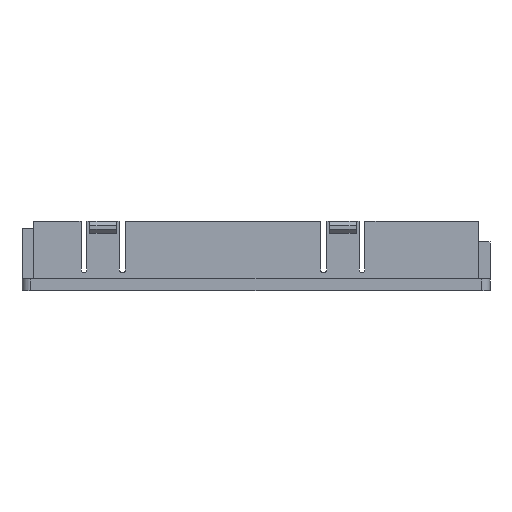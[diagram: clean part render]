
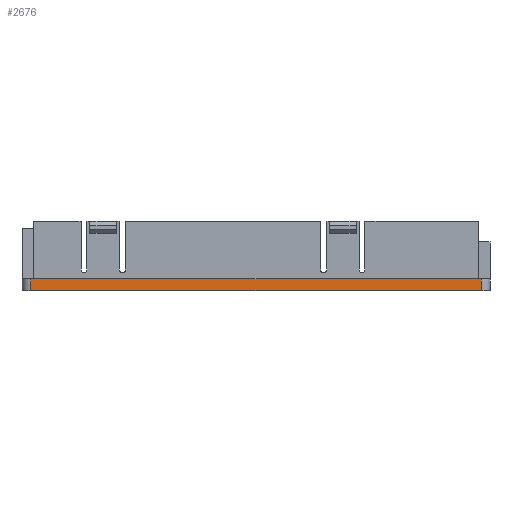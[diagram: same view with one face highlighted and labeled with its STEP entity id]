
A CAD part, front view. The second image highlights one B-rep face of the part: STEP entity #2676.
In plain terms, the highlighted planar face has unit normal (0, -1, 0).
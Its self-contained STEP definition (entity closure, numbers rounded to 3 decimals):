
#44 = PLANE('',#45);
#45 = AXIS2_PLACEMENT_3D('',#46,#47,#48);
#46 = CARTESIAN_POINT('',(0.,26.3,1.6));
#47 = DIRECTION('',(0.,0.,1.));
#48 = DIRECTION('',(-1.,-0.,0.));
#100 = PLANE('',#101);
#101 = AXIS2_PLACEMENT_3D('',#102,#103,#104);
#102 = CARTESIAN_POINT('',(0.,26.3,0.));
#103 = DIRECTION('',(0.,0.,1.));
#104 = DIRECTION('',(-1.,-0.,0.));
#128 = CYLINDRICAL_SURFACE('',#129,1.2);
#129 = AXIS2_PLACEMENT_3D('',#130,#131,#132);
#130 = CARTESIAN_POINT('',(1.2,1.2,0.));
#131 = DIRECTION('',(-0.,-0.,1.));
#132 = DIRECTION('',(-1.,-0.,0.));
#760 = VERTEX_POINT('',#761);
#761 = CARTESIAN_POINT('',(62.25,0.,1.6));
#780 = CYLINDRICAL_SURFACE('',#781,1.2);
#781 = AXIS2_PLACEMENT_3D('',#782,#783,#784);
#782 = CARTESIAN_POINT('',(62.25,1.2,0.));
#783 = DIRECTION('',(-0.,-0.,1.));
#784 = DIRECTION('',(1.,-0.,-0.));
#792 = EDGE_CURVE('',#793,#760,#795,.T.);
#793 = VERTEX_POINT('',#794);
#794 = CARTESIAN_POINT('',(1.2,0.,1.6));
#795 = SURFACE_CURVE('',#796,(#800,#807),.PCURVE_S1.);
#796 = LINE('',#797,#798);
#797 = CARTESIAN_POINT('',(0.,0.,1.6));
#798 = VECTOR('',#799,1.);
#799 = DIRECTION('',(1.,0.,0.));
#800 = PCURVE('',#44,#801);
#801 = DEFINITIONAL_REPRESENTATION('',(#802),#806);
#802 = LINE('',#803,#804);
#803 = CARTESIAN_POINT('',(-0.,26.3));
#804 = VECTOR('',#805,1.);
#805 = DIRECTION('',(-1.,-0.));
#806 = ( GEOMETRIC_REPRESENTATION_CONTEXT(2) 
PARAMETRIC_REPRESENTATION_CONTEXT() REPRESENTATION_CONTEXT('2D SPACE',''
  ) );
#807 = PCURVE('',#808,#813);
#808 = PLANE('',#809);
#809 = AXIS2_PLACEMENT_3D('',#810,#811,#812);
#810 = CARTESIAN_POINT('',(0.,0.,0.));
#811 = DIRECTION('',(0.,-1.,0.));
#812 = DIRECTION('',(0.,-0.,-1.));
#813 = DEFINITIONAL_REPRESENTATION('',(#814),#818);
#814 = LINE('',#815,#816);
#815 = CARTESIAN_POINT('',(-1.6,0.));
#816 = VECTOR('',#817,1.);
#817 = DIRECTION('',(-0.,1.));
#818 = ( GEOMETRIC_REPRESENTATION_CONTEXT(2) 
PARAMETRIC_REPRESENTATION_CONTEXT() REPRESENTATION_CONTEXT('2D SPACE',''
  ) );
#2061 = VERTEX_POINT('',#2062);
#2062 = CARTESIAN_POINT('',(1.2,0.,0.));
#2084 = EDGE_CURVE('',#2061,#793,#2085,.T.);
#2085 = SURFACE_CURVE('',#2086,(#2090,#2097),.PCURVE_S1.);
#2086 = LINE('',#2087,#2088);
#2087 = CARTESIAN_POINT('',(1.2,0.,0.));
#2088 = VECTOR('',#2089,1.);
#2089 = DIRECTION('',(-0.,-0.,1.));
#2090 = PCURVE('',#128,#2091);
#2091 = DEFINITIONAL_REPRESENTATION('',(#2092),#2096);
#2092 = LINE('',#2093,#2094);
#2093 = CARTESIAN_POINT('',(1.571,0.));
#2094 = VECTOR('',#2095,1.);
#2095 = DIRECTION('',(0.,1.));
#2096 = ( GEOMETRIC_REPRESENTATION_CONTEXT(2) 
PARAMETRIC_REPRESENTATION_CONTEXT() REPRESENTATION_CONTEXT('2D SPACE',''
  ) );
#2097 = PCURVE('',#808,#2098);
#2098 = DEFINITIONAL_REPRESENTATION('',(#2099),#2103);
#2099 = LINE('',#2100,#2101);
#2100 = CARTESIAN_POINT('',(-0.,1.2));
#2101 = VECTOR('',#2102,1.);
#2102 = DIRECTION('',(-1.,0.));
#2103 = ( GEOMETRIC_REPRESENTATION_CONTEXT(2) 
PARAMETRIC_REPRESENTATION_CONTEXT() REPRESENTATION_CONTEXT('2D SPACE',''
  ) );
#2210 = VERTEX_POINT('',#2211);
#2211 = CARTESIAN_POINT('',(62.25,0.,0.));
#2237 = EDGE_CURVE('',#2061,#2210,#2238,.T.);
#2238 = SURFACE_CURVE('',#2239,(#2243,#2250),.PCURVE_S1.);
#2239 = LINE('',#2240,#2241);
#2240 = CARTESIAN_POINT('',(0.,0.,0.));
#2241 = VECTOR('',#2242,1.);
#2242 = DIRECTION('',(1.,0.,0.));
#2243 = PCURVE('',#100,#2244);
#2244 = DEFINITIONAL_REPRESENTATION('',(#2245),#2249);
#2245 = LINE('',#2246,#2247);
#2246 = CARTESIAN_POINT('',(-0.,26.3));
#2247 = VECTOR('',#2248,1.);
#2248 = DIRECTION('',(-1.,-0.));
#2249 = ( GEOMETRIC_REPRESENTATION_CONTEXT(2) 
PARAMETRIC_REPRESENTATION_CONTEXT() REPRESENTATION_CONTEXT('2D SPACE',''
  ) );
#2250 = PCURVE('',#808,#2251);
#2251 = DEFINITIONAL_REPRESENTATION('',(#2252),#2256);
#2252 = LINE('',#2253,#2254);
#2253 = CARTESIAN_POINT('',(-0.,0.));
#2254 = VECTOR('',#2255,1.);
#2255 = DIRECTION('',(-0.,1.));
#2256 = ( GEOMETRIC_REPRESENTATION_CONTEXT(2) 
PARAMETRIC_REPRESENTATION_CONTEXT() REPRESENTATION_CONTEXT('2D SPACE',''
  ) );
#2676 = ADVANCED_FACE('',(#2677),#808,.T.);
#2677 = FACE_BOUND('',#2678,.F.);
#2678 = EDGE_LOOP('',(#2679,#2680,#2681,#2682));
#2679 = ORIENTED_EDGE('',*,*,#2237,.F.);
#2680 = ORIENTED_EDGE('',*,*,#2084,.T.);
#2681 = ORIENTED_EDGE('',*,*,#792,.T.);
#2682 = ORIENTED_EDGE('',*,*,#2683,.F.);
#2683 = EDGE_CURVE('',#2210,#760,#2684,.T.);
#2684 = SURFACE_CURVE('',#2685,(#2689,#2696),.PCURVE_S1.);
#2685 = LINE('',#2686,#2687);
#2686 = CARTESIAN_POINT('',(62.25,0.,0.));
#2687 = VECTOR('',#2688,1.);
#2688 = DIRECTION('',(-0.,-0.,1.));
#2689 = PCURVE('',#808,#2690);
#2690 = DEFINITIONAL_REPRESENTATION('',(#2691),#2695);
#2691 = LINE('',#2692,#2693);
#2692 = CARTESIAN_POINT('',(-0.,62.25));
#2693 = VECTOR('',#2694,1.);
#2694 = DIRECTION('',(-1.,0.));
#2695 = ( GEOMETRIC_REPRESENTATION_CONTEXT(2) 
PARAMETRIC_REPRESENTATION_CONTEXT() REPRESENTATION_CONTEXT('2D SPACE',''
  ) );
#2696 = PCURVE('',#780,#2697);
#2697 = DEFINITIONAL_REPRESENTATION('',(#2698),#2702);
#2698 = LINE('',#2699,#2700);
#2699 = CARTESIAN_POINT('',(-1.571,0.));
#2700 = VECTOR('',#2701,1.);
#2701 = DIRECTION('',(-0.,1.));
#2702 = ( GEOMETRIC_REPRESENTATION_CONTEXT(2) 
PARAMETRIC_REPRESENTATION_CONTEXT() REPRESENTATION_CONTEXT('2D SPACE',''
  ) );
